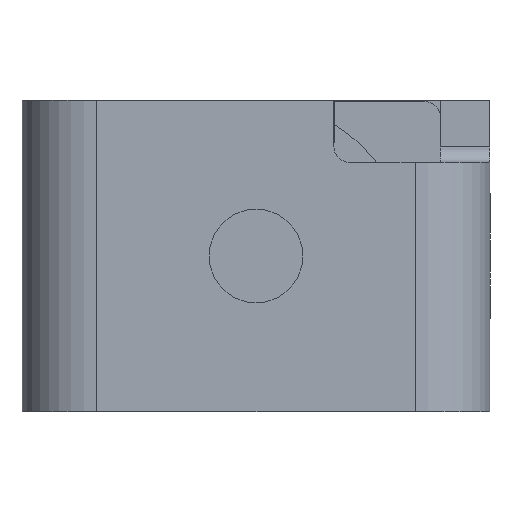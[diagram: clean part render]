
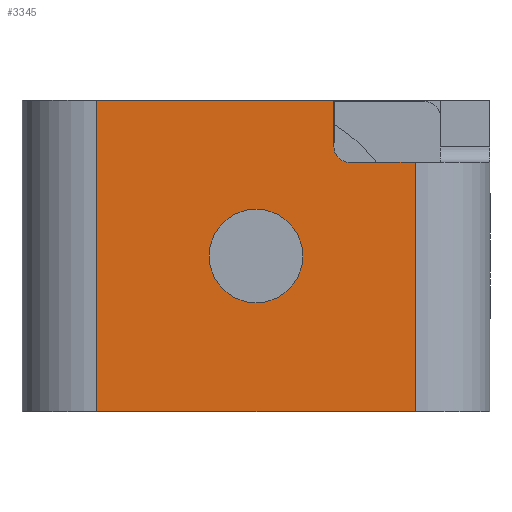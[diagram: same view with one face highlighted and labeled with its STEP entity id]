
A CAD part, front view. The second image highlights one B-rep face of the part: STEP entity #3345.
In plain terms, the highlighted planar face has unit normal (0, -1, 0).
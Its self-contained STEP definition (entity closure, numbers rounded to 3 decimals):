
#38 = DIRECTION ( 'NONE',  ( 0., -1., 0. ) ) ;
#97 = LINE ( 'NONE', #273, #2290 ) ;
#106 = VECTOR ( 'NONE', #2249, 1000. ) ;
#162 = CARTESIAN_POINT ( 'NONE',  ( -2.5, -28., -8. ) ) ;
#246 = EDGE_CURVE ( 'NONE', #1152, #3486, #804, .T. ) ;
#273 = CARTESIAN_POINT ( 'NONE',  ( 5.9, -28., -10. ) ) ;
#366 = VERTEX_POINT ( 'NONE', #3077 ) ;
#483 = CARTESIAN_POINT ( 'NONE',  ( -3., -28., -8. ) ) ;
#561 = VECTOR ( 'NONE', #793, 1000. ) ;
#567 = VERTEX_POINT ( 'NONE', #2103 ) ;
#725 = DIRECTION ( 'NONE',  ( -1., 0., 0. ) ) ;
#747 = EDGE_CURVE ( 'NONE', #366, #567, #1176, .T. ) ;
#769 = AXIS2_PLACEMENT_3D ( 'NONE', #2713, #1055, #2976 ) ;
#790 = VECTOR ( 'NONE', #725, 1000. ) ;
#793 = DIRECTION ( 'NONE',  ( 0., 0., 1. ) ) ;
#804 = CIRCLE ( 'NONE', #2300, 1.5 ) ;
#882 = CARTESIAN_POINT ( 'NONE',  ( -2.5, -28., -8. ) ) ;
#911 = EDGE_CURVE ( 'NONE', #2947, #2603, #97, .T. ) ;
#945 = PLANE ( 'NONE',  #1951 ) ;
#1055 = DIRECTION ( 'NONE',  ( 0., -1., 0. ) ) ;
#1069 = EDGE_CURVE ( 'NONE', #2077, #2096, #3138, .T. ) ;
#1081 = VECTOR ( 'NONE', #1868, 1000. ) ;
#1152 = VERTEX_POINT ( 'NONE', #2838 ) ;
#1171 = CARTESIAN_POINT ( 'NONE',  ( -3., -28., -8.5 ) ) ;
#1176 = LINE ( 'NONE', #3504, #1081 ) ;
#1227 = CARTESIAN_POINT ( 'NONE',  ( 5.9, -28., -10. ) ) ;
#1386 = VECTOR ( 'NONE', #2348, 1000. ) ;
#1421 = ORIENTED_EDGE ( 'NONE', *, *, #911, .F. ) ;
#1456 = DIRECTION ( 'NONE',  ( 0., 0., -1. ) ) ;
#1479 = ORIENTED_EDGE ( 'NONE', *, *, #1069, .T. ) ;
#1496 = EDGE_CURVE ( 'NONE', #2885, #567, #1946, .T. ) ;
#1505 = ORIENTED_EDGE ( 'NONE', *, *, #1926, .T. ) ;
#1506 = DIRECTION ( 'NONE',  ( 0., 1., 0. ) ) ;
#1554 = LINE ( 'NONE', #3434, #1386 ) ;
#1612 = CARTESIAN_POINT ( 'NONE',  ( -2.5, -28., -8.5 ) ) ;
#1614 = FACE_OUTER_BOUND ( 'NONE', #3052, .T. ) ;
#1688 = CARTESIAN_POINT ( 'NONE',  ( 0., -28., -5. ) ) ;
#1738 = ORIENTED_EDGE ( 'NONE', *, *, #2565, .F. ) ;
#1868 = DIRECTION ( 'NONE',  ( -1., 0., 0. ) ) ;
#1880 = CARTESIAN_POINT ( 'NONE',  ( 1.5, -28., -5. ) ) ;
#1926 = EDGE_CURVE ( 'NONE', #2947, #366, #1554, .T. ) ;
#1946 = LINE ( 'NONE', #2435, #561 ) ;
#1951 = AXIS2_PLACEMENT_3D ( 'NONE', #1227, #1506, #3409 ) ;
#1960 = DIRECTION ( 'NONE',  ( 0., 0., 1. ) ) ;
#2077 = VERTEX_POINT ( 'NONE', #483 ) ;
#2096 = VERTEX_POINT ( 'NONE', #1612 ) ;
#2103 = CARTESIAN_POINT ( 'NONE',  ( -5.1, -28., 0. ) ) ;
#2146 = CARTESIAN_POINT ( 'NONE',  ( 5.1, -28., -10. ) ) ;
#2205 = DIRECTION ( 'NONE',  ( -1., 0., 0. ) ) ;
#2215 = LINE ( 'NONE', #882, #106 ) ;
#2249 = DIRECTION ( 'NONE',  ( 0., 0., 1. ) ) ;
#2290 = VECTOR ( 'NONE', #2205, 1000. ) ;
#2300 = AXIS2_PLACEMENT_3D ( 'NONE', #1688, #38, #1960 ) ;
#2348 = DIRECTION ( 'NONE',  ( 0., 0., 1. ) ) ;
#2435 = CARTESIAN_POINT ( 'NONE',  ( -5.1, -28., -10. ) ) ;
#2438 = ORIENTED_EDGE ( 'NONE', *, *, #1496, .F. ) ;
#2565 = EDGE_CURVE ( 'NONE', #2603, #2096, #2215, .T. ) ;
#2603 = VERTEX_POINT ( 'NONE', #2824 ) ;
#2713 = CARTESIAN_POINT ( 'NONE',  ( 0., -28., -5. ) ) ;
#2767 = ORIENTED_EDGE ( 'NONE', *, *, #747, .T. ) ;
#2824 = CARTESIAN_POINT ( 'NONE',  ( -2.5, -28., -10. ) ) ;
#2838 = CARTESIAN_POINT ( 'NONE',  ( -1.5, -28., -5. ) ) ;
#2885 = VERTEX_POINT ( 'NONE', #3201 ) ;
#2947 = VERTEX_POINT ( 'NONE', #2146 ) ;
#2976 = DIRECTION ( 'NONE',  ( 0., 0., 1. ) ) ;
#2980 = ORIENTED_EDGE ( 'NONE', *, *, #3482, .F. ) ;
#3052 = EDGE_LOOP ( 'NONE', ( #3290, #1479, #1738, #1421, #1505, #2767, #2438 ) ) ;
#3064 = FACE_BOUND ( 'NONE', #3438, .T. ) ;
#3077 = CARTESIAN_POINT ( 'NONE',  ( 5.1, -28., 0. ) ) ;
#3084 = DIRECTION ( 'NONE',  ( 0., 1., 0. ) ) ;
#3138 = CIRCLE ( 'NONE', #3439, 0.5 ) ;
#3144 = LINE ( 'NONE', #162, #790 ) ;
#3201 = CARTESIAN_POINT ( 'NONE',  ( -5.1, -28., -8. ) ) ;
#3240 = ORIENTED_EDGE ( 'NONE', *, *, #246, .F. ) ;
#3290 = ORIENTED_EDGE ( 'NONE', *, *, #3363, .F. ) ;
#3345 = ADVANCED_FACE ( 'NONE', ( #3064, #1614 ), #945, .F. ) ;
#3360 = CIRCLE ( 'NONE', #769, 1.5 ) ;
#3363 = EDGE_CURVE ( 'NONE', #2077, #2885, #3144, .T. ) ;
#3409 = DIRECTION ( 'NONE',  ( 0., 0., -1. ) ) ;
#3434 = CARTESIAN_POINT ( 'NONE',  ( 5.1, -28., -10. ) ) ;
#3438 = EDGE_LOOP ( 'NONE', ( #2980, #3240 ) ) ;
#3439 = AXIS2_PLACEMENT_3D ( 'NONE', #1171, #3084, #1456 ) ;
#3482 = EDGE_CURVE ( 'NONE', #3486, #1152, #3360, .T. ) ;
#3486 = VERTEX_POINT ( 'NONE', #1880 ) ;
#3504 = CARTESIAN_POINT ( 'NONE',  ( 5.9, -28., 0. ) ) ;
